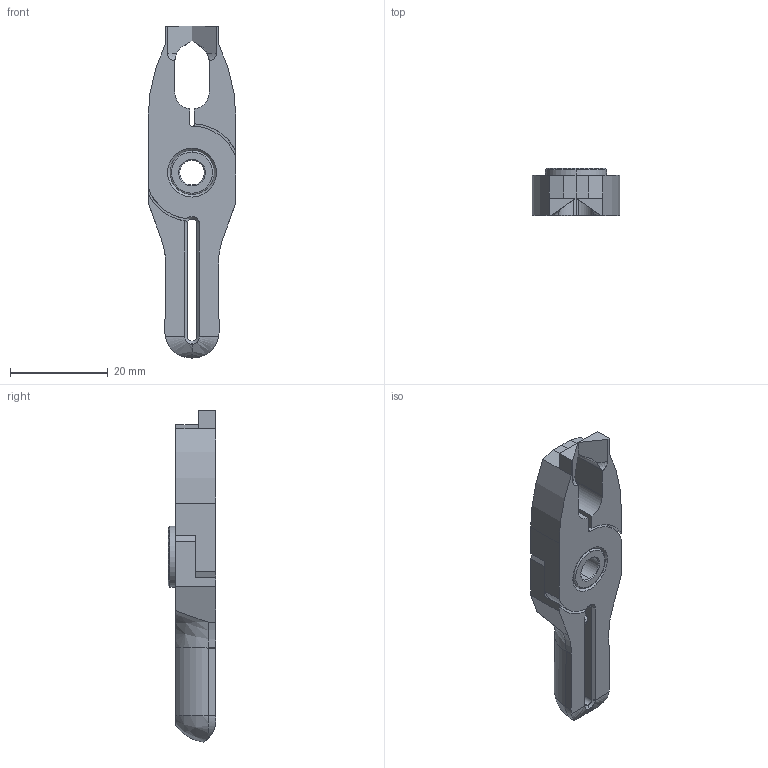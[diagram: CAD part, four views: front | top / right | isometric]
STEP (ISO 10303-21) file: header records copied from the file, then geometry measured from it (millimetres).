
FILE_DESCRIPTION (( 'STEP AP214' ), '1' );
FILE_NAME ('NY15AD.STEP', '2019-11-28T03:51:58', ( '微软用户' ), ( '微软中国' ), 'SwSTEP 2.0', 'SolidWorks 2016', '' );
FILE_SCHEMA (( 'AUTOMOTIVE_DESIGN' ));
Length unit declared in the file: millimetre
Products named in the file (4): BR2; NY15AD; BR1; BS
Assembly tree (3 placements, depth 2):
  NY15AD
    BS
    BR1
    BR2
Bounding box: 18 x 9.7 x 67.94 mm (x, y, z)
Volume: 5910.1 mm3; surface area: 5043.3 mm2
Topology: 3 solids, 3 shells, 134 faces, 345 edges, 218 vertices
Faces by surface type: plane 45, cylinder 36, bspline 27, cone 22, torus 4
Entity records: 5167 total; most frequent: CARTESIAN_POINT 2013, ORIENTED_EDGE 682, DIRECTION 556, EDGE_CURVE 341, VERTEX_POINT 218, AXIS2_PLACEMENT_3D 195, VECTOR 166, LINE 166
